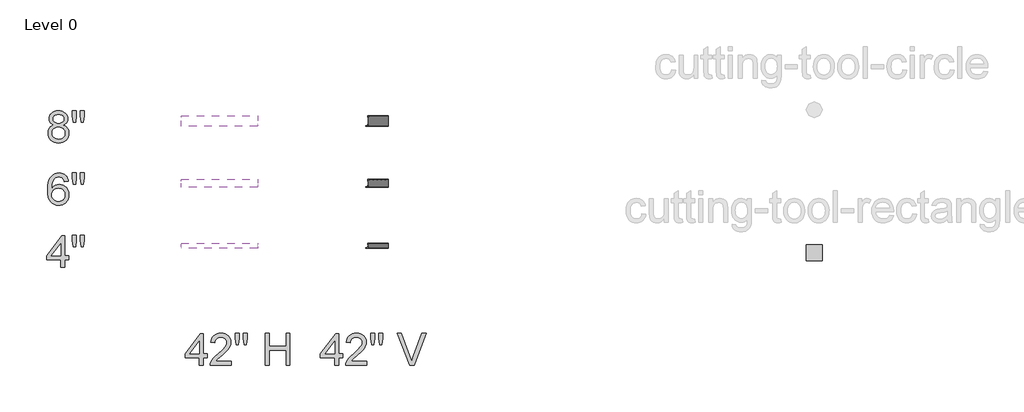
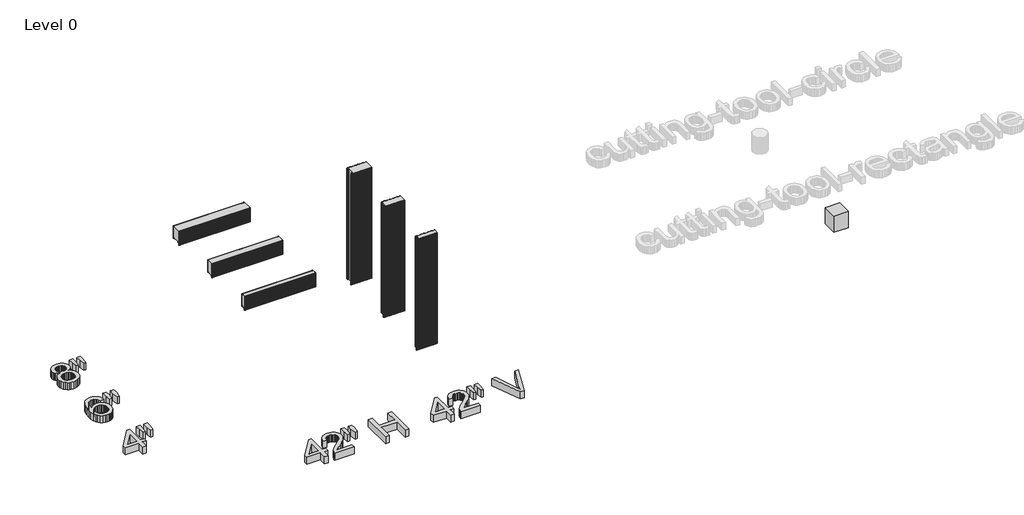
# One storey, part 1 of 3: 6 plates, 6 proxies.
"""IFC4 building model written with IfcOpenShell, lengths in millimetres."""

from ifc_helpers import new_model, si_unit, origin, origin_with_axes, place, context, project, spatial, polyline, outline, extrude, transform, mapped, element, save
from components import kingspan_ks_cutting_tool_rectangle_cutting_tool_rectangle_f435e5aa, plate_c4843a94, plate_f641b36d, plate_998a4aca, plate_d31e28da, plate_6c949a24, plate_b822c634

model = new_model("IFC4")

# Units and contexts
model_context = context("Model", 3, world=origin())
ifc_project = project(units=[si_unit("LENGTHUNIT", "METRE", prefix="MILLI")], contexts=[model_context])

# Site, building, storey
site = spatial("IfcSite", under=ifc_project)
building = spatial("IfcBuilding", under=site)
storey = spatial("IfcBuildingStorey", under=building, Name="Level 0", Elevation=0.0)

# Proxies
placement = place(None, origin())
element("IfcBuildingElementProxy", 1, Name="24\" Arial", ObjectType="24\" Arial", at=placement, inside=storey, context=model_context, shape_type="SweptSolid", body=[
    extrude(outline(polyline([(-11480.8304674, 9099.5393595), (-11480.8304674, 9242.3051848), (-11756.8443964, 9242.3051848), (-11756.8443964, 9318.4469584), (-11461.795024, 9699.1558259), (-11404.6886939, 9699.1558259), (-11404.6886939, 9318.4469584), (-11328.5469203, 9318.4469584), (-11328.5469203, 9242.3051848), (-11404.6886939, 9242.3051848), (-11404.6886939, 9099.5393595), (-11480.8304674, 9099.5393595)]), holes=[polyline([(-11480.8304674, 9318.4469584), (-11480.8304674, 9553.7131414), (-11663.1543235, 9318.4469584), (-11480.8304674, 9318.4469584)])]), origin_with_axes(), (0.0, 0.0, 1.0), 152.4),
    extrude(outline(polyline([(-11243.3335683, 9489.7659488), (-11261.9228685, 9607.3990403), (-11261.9228685, 9708.6735476), (-11185.781095, 9708.6735476), (-11185.781095, 9607.3990403), (-11202.437108, 9489.7659488), (-11243.3335683, 9489.7659488)])), origin_with_axes(), (0.0, 0.0, 1.0), 152.4),
    extrude(outline(polyline([(-11091.4961645, 9489.7659488), (-11109.6393215, 9607.3990403), (-11109.6393215, 9708.6735476), (-11033.497548, 9708.6735476), (-11033.497548, 9607.3990403), (-11051.3432761, 9489.7659488), (-11091.4961645, 9489.7659488)])), origin_with_axes(), (0.0, 0.0, 1.0), 152.4),
])
element("IfcBuildingElementProxy", 2, Name="24\" Arial", ObjectType="24\" Arial", at=placement, inside=storey, context=model_context, shape_type="SweptSolid", body=[
    extrude(outline(polyline([(-8830.6863907, 7226.0033745), (-8830.6863907, 7368.7691999), (-9106.7003197, 7368.7691999), (-9106.7003197, 7444.9109734), (-8811.6509473, 7825.619841), (-8754.5446171, 7825.619841), (-8754.5446171, 7444.9109734), (-8678.4028436, 7444.9109734), (-8678.4028436, 7368.7691999), (-8754.5446171, 7368.7691999), (-8754.5446171, 7226.0033745), (-8830.6863907, 7226.0033745)]), holes=[polyline([(-8830.6863907, 7444.9109734), (-8830.6863907, 7680.1771564), (-9013.0102468, 7444.9109734), (-8830.6863907, 7444.9109734)])]), origin_with_axes(), (0.0, 0.0, 1.0), 152.4),
    extrude(outline(polyline([(-8221.5522025, 7302.1451481), (-8221.5522025, 7226.0033745), (-8621.2965135, 7226.0033745), (-8619.6234765, 7252.8091454), (-8613.1172214, 7278.4995582), (-8594.3420282, 7319.5261437), (-8566.8670426, 7359.3258354), (-8527.1231188, 7400.9844571), (-8471.5411113, 7447.5878326), (-8389.3764045, 7520.5694251), (-8340.0775804, 7574.441217), (-8325.6987567, 7596.4509484), (-8315.4281684, 7618.163251), (-8309.2658154, 7639.5781248), (-8307.2116977, 7660.6955698), (-8309.1496323, 7680.5628844), (-8314.9634359, 7698.8222245), (-8324.6531086, 7715.4735901), (-8338.2186504, 7730.5169813), (-8354.9071946, 7742.9764597), (-8373.9658747, 7751.8760872), (-8395.3946904, 7757.2158637), (-8419.193642, 7758.9957892), (-8444.2659606, 7757.2576896), (-8466.6893039, 7752.0433909), (-8486.463672, 7743.3528931), (-8503.5890648, 7731.1861961), (-8517.4427407, 7715.9522646), (-8527.4019583, 7698.0600632), (-8533.4667175, 7677.5095918), (-8535.6370183, 7654.3008506), (-8611.7787918, 7663.8185723), (-8605.2307108, 7703.1256475), (-8593.3196167, 7737.4693796), (-8576.0455095, 7766.8497685), (-8553.4083892, 7791.2668143), (-8525.9287563, 7810.4602667), (-8494.127111, 7824.1698756), (-8458.0034534, 7832.3956409), (-8417.5577836, 7835.1375627), (-8376.7496224, 7832.0889174), (-8340.4307771, 7822.9429818), (-8308.6012479, 7807.6997556), (-8281.2610347, 7786.359239), (-8259.3024238, 7760.5015225), (-8243.6177018, 7731.7066965), (-8234.2068686, 7699.9747611), (-8231.0699242, 7665.3057163), (-8234.4531768, 7628.8892772), (-8244.6029347, 7593.1048744), (-8262.6159666, 7556.7070247), (-8289.5890412, 7518.4502449), (-8332.5860925, 7472.7763344), (-8398.6710546, 7414.1270923), (-8486.263837, 7340.8852496), (-8520.6168637, 7302.1451481), (-8221.5522025, 7302.1451481)])), origin_with_axes(), (0.0, 0.0, 1.0), 152.4),
    extrude(outline(polyline([(-8126.8211288, 7616.2299638), (-8145.410429, 7733.8630553), (-8145.410429, 7835.1375627), (-8069.2686555, 7835.1375627), (-8069.2686555, 7733.8630553), (-8085.9246684, 7616.2299638), (-8126.8211288, 7616.2299638)])), origin_with_axes(), (0.0, 0.0, 1.0), 152.4),
    extrude(outline(polyline([(-7974.983725, 7616.2299638), (-7993.126882, 7733.8630553), (-7993.126882, 7835.1375627), (-7916.9851084, 7835.1375627), (-7916.9851084, 7733.8630553), (-7934.8308366, 7616.2299638), (-7974.983725, 7616.2299638)])), origin_with_axes(), (0.0, 0.0, 1.0), 152.4),
    extrude(outline(polyline([(-7574.3471276, 7226.0033745), (-7574.3471276, 7835.1375627), (-7498.2053541, 7835.1375627), (-7498.2053541, 7587.6767987), (-7174.6028167, 7587.6767987), (-7174.6028167, 7835.1375627), (-7098.4610431, 7835.1375627), (-7098.4610431, 7226.0033745), (-7174.6028167, 7226.0033745), (-7174.6028167, 7511.5350252), (-7498.2053541, 7511.5350252), (-7498.2053541, 7226.0033745), (-7574.3471276, 7226.0033745)])), origin_with_axes(), (0.0, 0.0, 1.0), 152.4),
])
element("IfcBuildingElementProxy", 3, Name="24\" Arial", ObjectType="24\" Arial", at=placement, inside=storey, context=model_context, shape_type="SweptSolid", body=[
    extrude(outline(polyline([(-6239.8863907, 7226.0033745), (-6239.8863907, 7368.7691999), (-6515.9003197, 7368.7691999), (-6515.9003197, 7444.9109734), (-6220.8509473, 7825.619841), (-6163.7446171, 7825.619841), (-6163.7446171, 7444.9109734), (-6087.6028436, 7444.9109734), (-6087.6028436, 7368.7691999), (-6163.7446171, 7368.7691999), (-6163.7446171, 7226.0033745), (-6239.8863907, 7226.0033745)]), holes=[polyline([(-6239.8863907, 7444.9109734), (-6239.8863907, 7680.1771564), (-6422.2102468, 7444.9109734), (-6239.8863907, 7444.9109734)])]), origin_with_axes(), (0.0, 0.0, 1.0), 152.4),
    extrude(outline(polyline([(-5630.7522025, 7302.1451481), (-5630.7522025, 7226.0033745), (-6030.4965135, 7226.0033745), (-6028.8234765, 7252.8091454), (-6022.3172214, 7278.4995582), (-6003.5420282, 7319.5261437), (-5976.0670426, 7359.3258354), (-5936.3231188, 7400.9844571), (-5880.7411113, 7447.5878326), (-5798.5764045, 7520.5694251), (-5749.2775804, 7574.441217), (-5734.8987567, 7596.4509484), (-5724.6281684, 7618.163251), (-5718.4658154, 7639.5781248), (-5716.4116977, 7660.6955698), (-5718.3496323, 7680.5628844), (-5724.1634359, 7698.8222245), (-5733.8531086, 7715.4735901), (-5747.4186504, 7730.5169813), (-5764.1071946, 7742.9764597), (-5783.1658747, 7751.8760872), (-5804.5946904, 7757.2158637), (-5828.393642, 7758.9957892), (-5853.4659606, 7757.2576896), (-5875.8893039, 7752.0433909), (-5895.663672, 7743.3528931), (-5912.7890648, 7731.1861961), (-5926.6427407, 7715.9522646), (-5936.6019583, 7698.0600632), (-5942.6667175, 7677.5095918), (-5944.8370183, 7654.3008506), (-6020.9787918, 7663.8185723), (-6014.4307108, 7703.1256475), (-6002.5196167, 7737.4693796), (-5985.2455095, 7766.8497685), (-5962.6083892, 7791.2668143), (-5935.1287563, 7810.4602667), (-5903.327111, 7824.1698756), (-5867.2034534, 7832.3956409), (-5826.7577836, 7835.1375627), (-5785.9496224, 7832.0889174), (-5749.6307771, 7822.9429818), (-5717.8012479, 7807.6997556), (-5690.4610347, 7786.359239), (-5668.5024238, 7760.5015225), (-5652.8177018, 7731.7066965), (-5643.4068686, 7699.9747611), (-5640.2699242, 7665.3057163), (-5643.6531768, 7628.8892772), (-5653.8029347, 7593.1048744), (-5671.8159666, 7556.7070247), (-5698.7890412, 7518.4502449), (-5741.7860925, 7472.7763344), (-5807.8710546, 7414.1270923), (-5895.463837, 7340.8852496), (-5929.8168637, 7302.1451481), (-5630.7522025, 7302.1451481)])), origin_with_axes(), (0.0, 0.0, 1.0), 152.4),
    extrude(outline(polyline([(-5536.0211288, 7616.2299638), (-5554.610429, 7733.8630553), (-5554.610429, 7835.1375627), (-5478.4686555, 7835.1375627), (-5478.4686555, 7733.8630553), (-5495.1246684, 7616.2299638), (-5536.0211288, 7616.2299638)])), origin_with_axes(), (0.0, 0.0, 1.0), 152.4),
    extrude(outline(polyline([(-5384.183725, 7616.2299638), (-5402.326882, 7733.8630553), (-5402.326882, 7835.1375627), (-5326.1851084, 7835.1375627), (-5326.1851084, 7733.8630553), (-5344.0308366, 7616.2299638), (-5384.183725, 7616.2299638)])), origin_with_axes(), (0.0, 0.0, 1.0), 152.4),
    extrude(outline(polyline([(-4803.6027019, 7226.0033745), (-5046.0071762, 7835.1375627), (-4964.5116842, 7835.1375627), (-4802.2642723, 7396.2813641), (-4769.3983896, 7297.3862872), (-4736.9786501, 7396.2813641), (-4574.285095, 7835.1375627), (-4492.789603, 7835.1375627), (-4724.9327836, 7226.0033745), (-4803.6027019, 7226.0033745)])), origin_with_axes(), (0.0, 0.0, 1.0), 152.4),
])
element("IfcBuildingElementProxy", 4, Name="24\" Arial", ObjectType="24\" Arial", at=placement, inside=storey, context=model_context, shape_type="SweptSolid", body=[
    extrude(outline(polyline([(-11338.064642, 10741.6722789), (-11414.2064155, 10732.1545572), (-11426.4753537, 10769.8908366), (-11443.0570094, 10795.6556066), (-11459.4248882, 10809.5139299), (-11477.5959291, 10819.4127322), (-11497.5701322, 10825.3520136), (-11519.3474973, 10827.3317741), (-11554.7415249, 10822.7216277), (-11588.0535508, 10808.8911883), (-11616.6624838, 10779.761755), (-11640.0292341, 10739.6646345), (-11649.1612278, 10714.0904048), (-11655.8115499, 10682.9486797), (-11661.6671795, 10603.9627432), (-11631.1249593, 10639.5984316), (-11594.5226272, 10664.7125762), (-11553.9050064, 10679.6026056), (-11511.3169197, 10684.5659488), (-11474.7331769, 10681.1734015), (-11440.9750078, 10670.9957596), (-11410.0424123, 10654.0330232), (-11381.9353904, 10630.2851923), (-11358.5779348, 10601.1650535), (-11341.8940379, 10568.0853939), (-11331.8836997, 10531.0462133), (-11328.5469203, 10490.0475117), (-11330.1177162, 10462.2890393), (-11334.8301038, 10435.5250943), (-11342.6840831, 10409.755677), (-11353.6796542, 10384.9807872), (-11367.4264417, 10362.1252426), (-11383.5340703, 10342.1138609), (-11402.00254, 10324.9466422), (-11422.8318508, 10310.6235865), (-11445.5758596, 10299.3352339), (-11469.7884231, 10291.272125), (-11495.4695413, 10286.4342596), (-11522.6192142, 10284.8216378), (-11568.0096379, 10289.0971768), (-11609.0036921, 10301.923794), (-11645.6013768, 10323.3014892), (-11677.802692, 10353.2302625), (-11704.0554312, 10392.9741862), (-11722.8073878, 10443.7973329), (-11734.0585617, 10505.6997025), (-11737.808953, 10578.681295), (-11733.6449498, 10660.5020997), (-11721.15294, 10730.3328058), (-11700.3329238, 10788.1734133), (-11686.7999133, 10812.5974301), (-11671.1849012, 10834.0239222), (-11639.5923855, 10864.4081333), (-11602.9621695, 10886.1111413), (-11561.2942532, 10899.132946), (-11514.5886365, 10903.4735476), (-11479.5199217, 10900.7873938), (-11447.7786917, 10892.7289321), (-11419.3649463, 10879.2981628), (-11394.2786858, 10860.4950856), (-11373.1984194, 10836.951737), (-11356.8026566, 10809.3001529), (-11345.0913975, 10777.5403336), (-11338.064642, 10741.6722789)]), holes=[polyline([(-11661.6671795, 10491.237227), (-11657.2615153, 10457.4976471), (-11644.0445229, 10425.2823899), (-11623.5219355, 10397.5843327), (-11597.1994865, 10377.3963527), (-11565.4303725, 10365.0716467), (-11528.5677902, 10360.9634113), (-11502.1012741, 10363.0918862), (-11478.3209119, 10369.4773108), (-11457.2267035, 10380.1196852), (-11438.818649, 10395.0190092), (-11423.8867936, 10413.5711308), (-11413.2211826, 10435.1718976), (-11406.8218161, 10459.8213097), (-11404.6886939, 10487.5193669), (-11406.7939321, 10514.1345974), (-11413.1096468, 10537.7662453), (-11423.6358381, 10558.4143105), (-11438.3725058, 10576.078793), (-11456.8363282, 10590.2298977), (-11478.5439835, 10600.3378297), (-11503.4954716, 10606.4025889), (-11531.6907927, 10608.4241753), (-11557.8041121, 10606.4025889), (-11581.8633138, 10600.3378297), (-11603.8683979, 10590.2298977), (-11623.8193643, 10576.078793), (-11640.3777835, 10558.6466767), (-11652.2052257, 10538.6957103), (-11659.301691, 10516.2258937), (-11661.6671795, 10491.237227)])]), origin_with_axes(), (0.0, 0.0, 1.0), 152.4),
    extrude(outline(polyline([(-11243.3335683, 10684.5659488), (-11261.9228685, 10802.1990403), (-11261.9228685, 10903.4735476), (-11185.781095, 10903.4735476), (-11185.781095, 10802.1990403), (-11202.437108, 10684.5659488), (-11243.3335683, 10684.5659488)])), origin_with_axes(), (0.0, 0.0, 1.0), 152.4),
    extrude(outline(polyline([(-11091.4961645, 10684.5659488), (-11109.6393215, 10802.1990403), (-11109.6393215, 10903.4735476), (-11033.497548, 10903.4735476), (-11033.497548, 10802.1990403), (-11051.3432761, 10684.5659488), (-11091.4961645, 10684.5659488)])), origin_with_axes(), (0.0, 0.0, 1.0), 152.4),
])
element("IfcBuildingElementProxy", 5, Name="24\" Arial", ObjectType="24\" Arial", at=placement, inside=storey, context=model_context, shape_type="SweptSolid", body=[
    extrude(outline(polyline([(-11617.3502879, 11821.2374755), (-11658.1166231, 11841.3139197), (-11673.9407649, 11854.029001), (-11686.7255561, 11868.5286551), (-11696.5825325, 11884.6734623), (-11703.62323, 11902.3240029), (-11709.2557879, 11942.1422838), (-11706.1885534, 11973.1957098), (-11696.9868498, 12001.665223), (-11681.6506772, 12027.5508235), (-11660.1800355, 12050.8525113), (-11633.6066309, 12070.1110262), (-11602.9621695, 12083.8671084), (-11568.2466515, 12092.1207576), (-11529.4600766, 12094.8719741), (-11490.4876088, 12092.0556951), (-11455.5118405, 12083.6068582), (-11424.5327718, 12069.5254633), (-11397.5504026, 12049.8115104), (-11375.6893856, 12026.0543848), (-11360.0743734, 11999.8434716), (-11350.7053662, 11971.1787707), (-11347.5823637, 11940.0602822), (-11353.1405645, 11901.5246629), (-11369.8151667, 11868.3055835), (-11382.3675917, 11853.9035232), (-11397.7920635, 11841.2581518), (-11437.2571478, 11821.2374755), (-11412.2313024, 11810.5904538), (-11390.393522, 11797.0899746), (-11371.7438066, 11780.7360377), (-11356.2821562, 11761.5286433), (-11344.1479905, 11739.8953452), (-11335.4807293, 11716.2636974), (-11330.2803726, 11690.6336998), (-11328.5469203, 11663.0053524), (-11331.9859409, 11625.0274121), (-11342.3030025, 11590.2096529), (-11359.4981051, 11558.5520747), (-11383.5712489, 11530.0546775), (-11413.2583612, 11506.5020342), (-11447.2953699, 11489.6787176), (-11485.6822747, 11479.5847276), (-11528.4190758, 11476.2200642), (-11571.1558769, 11479.5986695), (-11609.5427818, 11489.7344855), (-11643.5797904, 11506.627512), (-11673.2669028, 11530.2777491), (-11697.3400465, 11558.9749813), (-11714.5351492, 11591.0089928), (-11724.8522108, 11626.3797837), (-11728.2912313, 11665.087354), (-11726.4880692, 11693.9751265), (-11721.0785828, 11720.4091113), (-11712.0627723, 11744.3893086), (-11699.4406374, 11765.9157182), (-11683.4910179, 11784.5979648), (-11664.4927531, 11800.0456733), (-11642.4458431, 11812.2588435), (-11617.3502879, 11821.2374755)]), holes=[polyline([(-11633.1140144, 11939.9115678), (-11631.4270354, 11922.4562149), (-11626.3660984, 11906.6738991), (-11617.9312035, 11892.5646203), (-11606.1223506, 11880.1283784), (-11591.088254, 11869.9786205), (-11572.9776283, 11862.7287935), (-11551.7904735, 11858.3788972), (-11527.5267894, 11856.9289318), (-11503.8626103, 11858.3696026), (-11483.1355406, 11862.6916149), (-11465.3455803, 11869.8949687), (-11450.4927295, 11879.979664), (-11438.7814704, 11892.1556557), (-11430.4162853, 11905.6328983), (-11425.3971743, 11920.4113919), (-11423.7241372, 11936.4911366), (-11425.4529422, 11953.1982701), (-11430.6393569, 11968.5205008), (-11439.2833815, 11982.4578286), (-11451.3850159, 11995.0102535), (-11466.5724741, 12005.3877303), (-11484.4739702, 12012.8002138), (-11505.0895041, 12017.2477039), (-11528.4190758, 12018.7302005), (-11551.9298932, 12017.2802351), (-11572.6430209, 12012.9303389), (-11590.558459, 12005.6805118), (-11605.6762074, 11995.5307539), (-11617.6802479, 11983.3547623), (-11626.2545626, 11970.0262341), (-11631.3991515, 11955.5451693), (-11633.1140144, 11939.9115678)]), polyline([(-11652.1494578, 11667.7642132), (-11648.9706875, 11638.6347799), (-11639.4343765, 11610.4348115), (-11621.8303092, 11585.8411674), (-11594.44827, 11567.5307067), (-11561.6567445, 11556.154055), (-11527.8242182, 11552.3618378), (-11500.2934647, 11554.3555402), (-11475.9972493, 11560.3366475), (-11454.9355722, 11570.3051598), (-11437.1084334, 11584.2610769), (-11422.9247973, 11601.2935231), (-11412.7936287, 11620.4916229), (-11406.7149276, 11641.8553761), (-11404.6886939, 11665.3847828), (-11406.7799901, 11689.2906228), (-11413.0538789, 11711.0401041), (-11423.5103603, 11730.6332264), (-11438.1494342, 11748.06999), (-11456.4598948, 11762.3837511), (-11477.9305365, 11772.6078662), (-11502.5613593, 11778.7423353), (-11530.352363, 11780.7871583), (-11557.4787993, 11778.7702192), (-11581.4543492, 11772.719402), (-11602.2790127, 11762.6347067), (-11619.9527899, 11748.5161332), (-11634.0388321, 11731.3675038), (-11644.1002908, 11712.1926407), (-11650.137166, 11690.9915438), (-11652.1494578, 11667.7642132)])]), origin_with_axes(), (0.0, 0.0, 1.0), 152.4),
    extrude(outline(polyline([(-11243.3335683, 11875.9643752), (-11261.9228685, 11993.5974667), (-11261.9228685, 12094.8719741), (-11185.781095, 12094.8719741), (-11185.781095, 11993.5974667), (-11202.437108, 11875.9643752), (-11243.3335683, 11875.9643752)])), origin_with_axes(), (0.0, 0.0, 1.0), 152.4),
    extrude(outline(polyline([(-11091.4961645, 11875.9643752), (-11109.6393215, 11993.5974667), (-11109.6393215, 12094.8719741), (-11033.497548, 12094.8719741), (-11033.497548, 11993.5974667), (-11051.3432761, 11875.9643752), (-11091.4961645, 11875.9643752)])), origin_with_axes(), (0.0, 0.0, 1.0), 152.4),
])
kingspan_ks_cutting_tool_rectangle_cutting_tool_rectangle_shape = kingspan_ks_cutting_tool_rectangle_cutting_tool_rectangle_f435e5aa(model_context)
element("IfcBuildingElementProxy", 6, Name="kingspan-ks-cutting-tool-rectangle : cutting-tool-rectangle", ObjectType="kingspan-ks-cutting-tool-rectangle : cutting-tool-rectangle", at=placement, inside=storey, context=model_context, shape_type="MappedRepresentation", body=[
    mapped(kingspan_ks_cutting_tool_rectangle_cutting_tool_rectangle_shape, transform((2935.6857484, 9378.2561871, 0.0), x_axis=(1.0, 0.0, 0.0), y_axis=(0.0, 1.0, 0.0), z_axis=(0.0, 0.0, 1.0))),
])

# Plates
plate_shape = plate_c4843a94(model_context)
element("IfcPlate", 7, ObjectType="KIP-42-KRHF-R19-CP-Hz-MR_SL : Hz 4\"", at=placement, inside=storey, context=model_context, shape_type="MappedRepresentation", body=[
    mapped(plate_shape, transform((-8448.7250935, 9562.4222907, 2133.6), x_axis=(1.0, 0.0, 0.0), y_axis=(0.0, 1.0, 0.0), z_axis=(0.0, 0.0, 1.0))),
])
plate_2_shape = plate_f641b36d(model_context)
element("IfcPlate", 8, ObjectType="KIP-42-KRHF-R19-CP-Hz-MR_SL : Hz 6\"", at=placement, inside=storey, context=model_context, shape_type="MappedRepresentation", body=[
    mapped(plate_2_shape, transform((-8448.7250935, 10781.6222907, 2133.6), x_axis=(1.0, 0.0, 0.0), y_axis=(0.0, 1.0, 0.0), z_axis=(0.0, 0.0, 1.0))),
])
plate_3_shape = plate_998a4aca(model_context)
element("IfcPlate", 9, ObjectType="KIP-42-KRHF-R19-CP-Hz-MR_SL : Hz 8\"", at=placement, inside=storey, context=model_context, shape_type="MappedRepresentation", body=[
    mapped(plate_3_shape, transform((-8448.7250935, 11999.4207172, 2133.6), x_axis=(1.0, 0.0, 0.0), y_axis=(0.0, 1.0, 0.0), z_axis=(0.0, 0.0, 1.0))),
])
plate_4_shape = plate_d31e28da(model_context)
element("IfcPlate", 10, ObjectType="KIP-42-KRHF-R19-CP-Vt-MR_SL : Vt 4\"", at=placement, inside=storey, context=model_context, shape_type="MappedRepresentation", body=[
    mapped(plate_4_shape, transform((-5415.5413834, 9561.0207172, 0.0), x_axis=(1.0, 0.0, 0.0), y_axis=(0.0, 1.0, 0.0), z_axis=(0.0, 0.0, 1.0))),
])
plate_5_shape = plate_6c949a24(model_context)
element("IfcPlate", 11, ObjectType="KIP-42-KRHF-R19-CP-Vt-MR_SL : Vt 6\"", at=placement, inside=storey, context=model_context, shape_type="MappedRepresentation", body=[
    mapped(plate_5_shape, transform((-5415.5413834, 10780.2207172, 0.0), x_axis=(1.0, 0.0, 0.0), y_axis=(0.0, 1.0, 0.0), z_axis=(0.0, 0.0, 1.0))),
])
plate_6_shape = plate_b822c634(model_context)
element("IfcPlate", 12, ObjectType="KIP-42-KRHF-R19-CP-Vt-MR_SL : Vt 8\"", at=placement, inside=storey, context=model_context, shape_type="MappedRepresentation", body=[
    mapped(plate_6_shape, transform((-5415.5413834, 11999.4207172, 0.0), x_axis=(1.0, 0.0, 0.0), y_axis=(0.0, 1.0, 0.0), z_axis=(0.0, 0.0, 1.0))),
])

save(model, "model.ifc")
